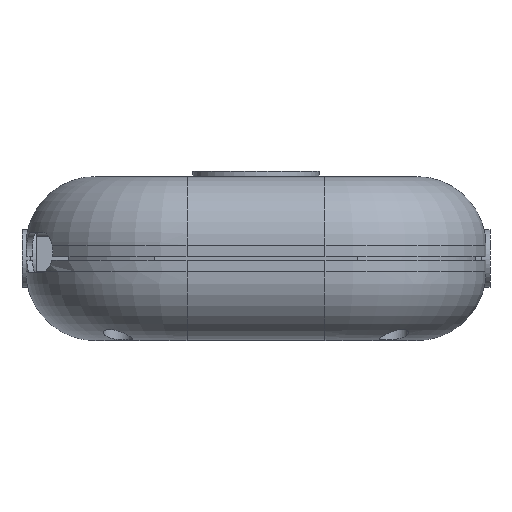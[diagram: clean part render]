
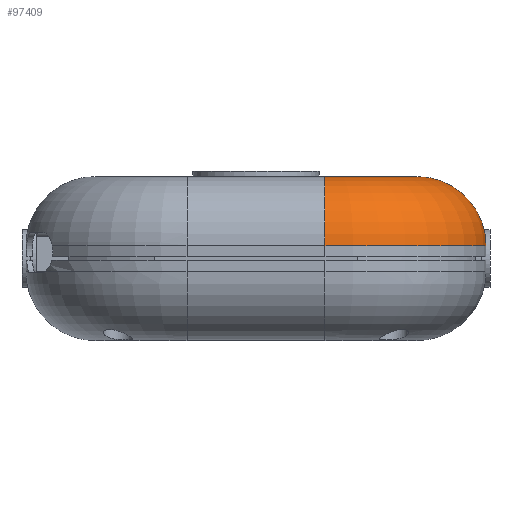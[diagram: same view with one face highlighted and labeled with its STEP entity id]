
A CAD part, front view. The second image highlights one B-rep face of the part: STEP entity #97409.
In plain terms, the highlighted toroidal (fillet/blend) face has major radius 16 mm and minor radius 12 mm.
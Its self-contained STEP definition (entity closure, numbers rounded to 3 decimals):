
#94193 = PLANE('',#94194);
#94194 = AXIS2_PLACEMENT_3D('',#94195,#94196,#94197);
#94195 = CARTESIAN_POINT('',(-40.,-64.,28.5));
#94196 = DIRECTION('',(0.,0.,1.));
#94197 = DIRECTION('',(1.,0.,-0.));
#94482 = CYLINDRICAL_SURFACE('',#94483,12.);
#94483 = AXIS2_PLACEMENT_3D('',#94484,#94485,#94486);
#94484 = CARTESIAN_POINT('',(12.,-52.,16.5));
#94485 = DIRECTION('',(-1.,-0.,-0.));
#94486 = DIRECTION('',(-0.,0.,1.));
#94912 = VERTEX_POINT('',#94913);
#94913 = CARTESIAN_POINT('',(12.,-52.,28.5));
#94934 = EDGE_CURVE('',#94935,#94912,#94937,.T.);
#94935 = VERTEX_POINT('',#94936);
#94936 = CARTESIAN_POINT('',(28.,-36.,28.5));
#94937 = SURFACE_CURVE('',#94938,(#94943,#94954),.PCURVE_S1.);
#94938 = CIRCLE('',#94939,16.);
#94939 = AXIS2_PLACEMENT_3D('',#94940,#94941,#94942);
#94940 = CARTESIAN_POINT('',(12.,-36.,28.5));
#94941 = DIRECTION('',(0.,0.,-1.));
#94942 = DIRECTION('',(1.,0.,0.));
#94943 = PCURVE('',#94193,#94944);
#94944 = DEFINITIONAL_REPRESENTATION('',(#94945),#94953);
#94945 = ( BOUNDED_CURVE() B_SPLINE_CURVE(2,(#94946,#94947,#94948,#94949
    ,#94950,#94951,#94952),.UNSPECIFIED.,.T.,.F.) 
B_SPLINE_CURVE_WITH_KNOTS((1,2,2,2,2,1),(-2.094,0.,
    2.094,4.189,6.283,8.378),
.UNSPECIFIED.) CURVE() GEOMETRIC_REPRESENTATION_ITEM() 
RATIONAL_B_SPLINE_CURVE((1.,0.5,1.,0.5,1.,0.5,1.)) REPRESENTATION_ITEM(
  '') );
#94946 = CARTESIAN_POINT('',(68.,28.));
#94947 = CARTESIAN_POINT('',(68.,0.287));
#94948 = CARTESIAN_POINT('',(44.,14.144));
#94949 = CARTESIAN_POINT('',(20.,28.));
#94950 = CARTESIAN_POINT('',(44.,41.856));
#94951 = CARTESIAN_POINT('',(68.,55.713));
#94952 = CARTESIAN_POINT('',(68.,28.));
#94953 = ( GEOMETRIC_REPRESENTATION_CONTEXT(2) 
PARAMETRIC_REPRESENTATION_CONTEXT() REPRESENTATION_CONTEXT('2D SPACE',''
  ) );
#94954 = PCURVE('',#94955,#94960);
#94955 = TOROIDAL_SURFACE('',#94956,16.,12.);
#94956 = AXIS2_PLACEMENT_3D('',#94957,#94958,#94959);
#94957 = CARTESIAN_POINT('',(12.,-36.,16.5));
#94958 = DIRECTION('',(-0.,-0.,-1.));
#94959 = DIRECTION('',(1.,0.,0.));
#94960 = DEFINITIONAL_REPRESENTATION('',(#94961),#94965);
#94961 = LINE('',#94962,#94963);
#94962 = CARTESIAN_POINT('',(0.,4.712));
#94963 = VECTOR('',#94964,1.);
#94964 = DIRECTION('',(1.,0.));
#94965 = ( GEOMETRIC_REPRESENTATION_CONTEXT(2) 
PARAMETRIC_REPRESENTATION_CONTEXT() REPRESENTATION_CONTEXT('2D SPACE',''
  ) );
#94983 = CYLINDRICAL_SURFACE('',#94984,12.);
#94984 = AXIS2_PLACEMENT_3D('',#94985,#94986,#94987);
#94985 = CARTESIAN_POINT('',(28.,36.,16.5));
#94986 = DIRECTION('',(-0.,-1.,-0.));
#94987 = DIRECTION('',(0.,0.,1.));
#95922 = VERTEX_POINT('',#95923);
#95923 = CARTESIAN_POINT('',(12.,-64.,16.5));
#95949 = EDGE_CURVE('',#94912,#95922,#95950,.T.);
#95950 = SURFACE_CURVE('',#95951,(#95956,#95962),.PCURVE_S1.);
#95951 = CIRCLE('',#95952,12.);
#95952 = AXIS2_PLACEMENT_3D('',#95953,#95954,#95955);
#95953 = CARTESIAN_POINT('',(12.,-52.,16.5));
#95954 = DIRECTION('',(1.,0.,0.));
#95955 = DIRECTION('',(0.,-1.,0.));
#95956 = PCURVE('',#94482,#95957);
#95957 = DEFINITIONAL_REPRESENTATION('',(#95958),#95961);
#95958 = B_SPLINE_CURVE_WITH_KNOTS('',1,(#95959,#95960),.UNSPECIFIED.,
  .F.,.F.,(2,2),(4.712,6.283),
  .PIECEWISE_BEZIER_KNOTS.);
#95959 = CARTESIAN_POINT('',(6.283,0.));
#95960 = CARTESIAN_POINT('',(4.712,0.));
#95961 = ( GEOMETRIC_REPRESENTATION_CONTEXT(2) 
PARAMETRIC_REPRESENTATION_CONTEXT() REPRESENTATION_CONTEXT('2D SPACE',''
  ) );
#95962 = PCURVE('',#94955,#95963);
#95963 = DEFINITIONAL_REPRESENTATION('',(#95964),#95967);
#95964 = B_SPLINE_CURVE_WITH_KNOTS('',1,(#95965,#95966),.UNSPECIFIED.,
  .F.,.F.,(2,2),(4.712,6.283),
  .PIECEWISE_BEZIER_KNOTS.);
#95965 = CARTESIAN_POINT('',(1.571,4.712));
#95966 = CARTESIAN_POINT('',(1.571,6.283));
#95967 = ( GEOMETRIC_REPRESENTATION_CONTEXT(2) 
PARAMETRIC_REPRESENTATION_CONTEXT() REPRESENTATION_CONTEXT('2D SPACE',''
  ) );
#96894 = EDGE_CURVE('',#94935,#96895,#96897,.T.);
#96895 = VERTEX_POINT('',#96896);
#96896 = CARTESIAN_POINT('',(40.,-36.,16.5));
#96897 = SURFACE_CURVE('',#96898,(#96903,#96909),.PCURVE_S1.);
#96898 = CIRCLE('',#96899,12.);
#96899 = AXIS2_PLACEMENT_3D('',#96900,#96901,#96902);
#96900 = CARTESIAN_POINT('',(28.,-36.,16.5));
#96901 = DIRECTION('',(0.,1.,0.));
#96902 = DIRECTION('',(0.,-0.,1.));
#96903 = PCURVE('',#94983,#96904);
#96904 = DEFINITIONAL_REPRESENTATION('',(#96905),#96908);
#96905 = B_SPLINE_CURVE_WITH_KNOTS('',1,(#96906,#96907),.UNSPECIFIED.,
  .F.,.F.,(2,2),(0.,1.571),.PIECEWISE_BEZIER_KNOTS.);
#96906 = CARTESIAN_POINT('',(6.283,72.));
#96907 = CARTESIAN_POINT('',(4.712,72.));
#96908 = ( GEOMETRIC_REPRESENTATION_CONTEXT(2) 
PARAMETRIC_REPRESENTATION_CONTEXT() REPRESENTATION_CONTEXT('2D SPACE',''
  ) );
#96909 = PCURVE('',#94955,#96910);
#96910 = DEFINITIONAL_REPRESENTATION('',(#96911),#96914);
#96911 = B_SPLINE_CURVE_WITH_KNOTS('',1,(#96912,#96913),.UNSPECIFIED.,
  .F.,.F.,(2,2),(0.,1.571),.PIECEWISE_BEZIER_KNOTS.);
#96912 = CARTESIAN_POINT('',(0.,4.712));
#96913 = CARTESIAN_POINT('',(0.,6.283));
#96914 = ( GEOMETRIC_REPRESENTATION_CONTEXT(2) 
PARAMETRIC_REPRESENTATION_CONTEXT() REPRESENTATION_CONTEXT('2D SPACE',''
  ) );
#97409 = ADVANCED_FACE('',(#97410),#94955,.T.);
#97410 = FACE_BOUND('',#97411,.T.);
#97411 = EDGE_LOOP('',(#97412,#97413,#97414,#97415));
#97412 = ORIENTED_EDGE('',*,*,#96894,.F.);
#97413 = ORIENTED_EDGE('',*,*,#94934,.T.);
#97414 = ORIENTED_EDGE('',*,*,#95949,.T.);
#97415 = ORIENTED_EDGE('',*,*,#97416,.F.);
#97416 = EDGE_CURVE('',#96895,#95922,#97417,.T.);
#97417 = SURFACE_CURVE('',#97418,(#97423,#97430),.PCURVE_S1.);
#97418 = CIRCLE('',#97419,28.);
#97419 = AXIS2_PLACEMENT_3D('',#97420,#97421,#97422);
#97420 = CARTESIAN_POINT('',(12.,-36.,16.5));
#97421 = DIRECTION('',(0.,0.,-1.));
#97422 = DIRECTION('',(1.,0.,0.));
#97423 = PCURVE('',#94955,#97424);
#97424 = DEFINITIONAL_REPRESENTATION('',(#97425),#97429);
#97425 = LINE('',#97426,#97427);
#97426 = CARTESIAN_POINT('',(0.,6.283));
#97427 = VECTOR('',#97428,1.);
#97428 = DIRECTION('',(1.,0.));
#97429 = ( GEOMETRIC_REPRESENTATION_CONTEXT(2) 
PARAMETRIC_REPRESENTATION_CONTEXT() REPRESENTATION_CONTEXT('2D SPACE',''
  ) );
#97430 = PCURVE('',#97431,#97436);
#97431 = CYLINDRICAL_SURFACE('',#97432,28.);
#97432 = AXIS2_PLACEMENT_3D('',#97433,#97434,#97435);
#97433 = CARTESIAN_POINT('',(12.,-36.,0.));
#97434 = DIRECTION('',(0.,0.,1.));
#97435 = DIRECTION('',(1.,0.,-0.));
#97436 = DEFINITIONAL_REPRESENTATION('',(#97437),#97441);
#97437 = LINE('',#97438,#97439);
#97438 = CARTESIAN_POINT('',(6.283,16.5));
#97439 = VECTOR('',#97440,1.);
#97440 = DIRECTION('',(-1.,0.));
#97441 = ( GEOMETRIC_REPRESENTATION_CONTEXT(2) 
PARAMETRIC_REPRESENTATION_CONTEXT() REPRESENTATION_CONTEXT('2D SPACE',''
  ) );
